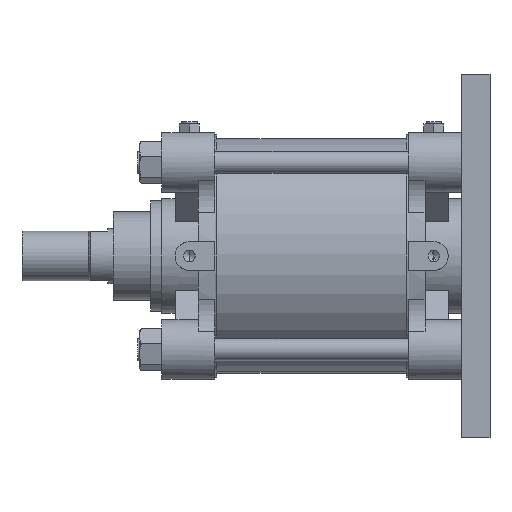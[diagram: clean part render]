
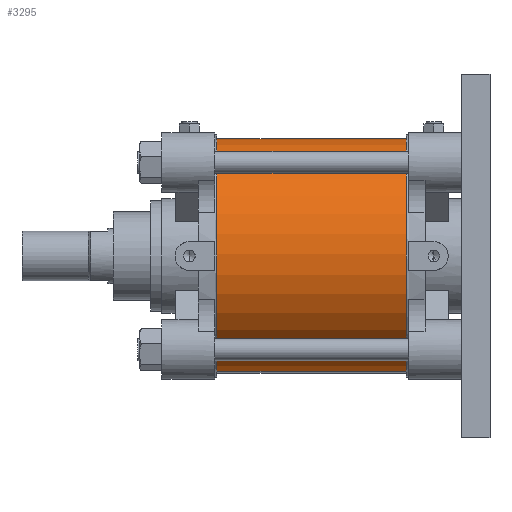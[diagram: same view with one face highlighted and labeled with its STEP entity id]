
A CAD part, front view. The second image highlights one B-rep face of the part: STEP entity #3295.
In plain terms, the highlighted cylindrical face has radius 106.5 mm (diameter 213 mm), a partial arc.
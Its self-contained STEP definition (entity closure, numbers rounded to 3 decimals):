
#138 = CARTESIAN_POINT ( 'NONE',  ( 86., 0., 106.5 ) ) ;
#387 = CARTESIAN_POINT ( 'NONE',  ( 86., 0., 0. ) ) ;
#526 = DIRECTION ( 'NONE',  ( -1., 0., 0. ) ) ;
#600 = VECTOR ( 'NONE', #526, 1000. ) ;
#669 = DIRECTION ( 'NONE',  ( 1., 0., 0. ) ) ;
#1506 = CARTESIAN_POINT ( 'NONE',  ( 86., 0., 106.5 ) ) ;
#1766 = VERTEX_POINT ( 'NONE', #5943 ) ;
#1798 = ORIENTED_EDGE ( 'NONE', *, *, #6163, .F. ) ;
#1807 = VERTEX_POINT ( 'NONE', #1506 ) ;
#2046 = EDGE_CURVE ( 'NONE', #1807, #1766, #7864, .T. ) ;
#2309 = CARTESIAN_POINT ( 'NONE',  ( 86., 0., 0. ) ) ;
#2362 = CARTESIAN_POINT ( 'NONE',  ( 86., 0., -106.5 ) ) ;
#3135 = CARTESIAN_POINT ( 'NONE',  ( -86., 0., -106.5 ) ) ;
#3267 = VERTEX_POINT ( 'NONE', #3135 ) ;
#3295 = ADVANCED_FACE ( 'NONE', ( #9736 ), #4326, .T. ) ;
#3824 = DIRECTION ( 'NONE',  ( 0., 0., -1. ) ) ;
#3960 = AXIS2_PLACEMENT_3D ( 'NONE', #2309, #5877, #9077 ) ;
#4003 = CARTESIAN_POINT ( 'NONE',  ( -86., 0., 0. ) ) ;
#4326 = CYLINDRICAL_SURFACE ( 'NONE', #3960, 106.5 ) ;
#4371 = VERTEX_POINT ( 'NONE', #7668 ) ;
#5664 = CIRCLE ( 'NONE', #9527, 106.5 ) ;
#5754 = DIRECTION ( 'NONE',  ( 0., 0., -1. ) ) ;
#5877 = DIRECTION ( 'NONE',  ( -1., 0., 0. ) ) ;
#5943 = CARTESIAN_POINT ( 'NONE',  ( -86., 0., 106.5 ) ) ;
#6163 = EDGE_CURVE ( 'NONE', #4371, #3267, #7490, .T. ) ;
#6226 = ORIENTED_EDGE ( 'NONE', *, *, #7785, .T. ) ;
#6927 = VECTOR ( 'NONE', #8711, 1000. ) ;
#7041 = EDGE_CURVE ( 'NONE', #1807, #4371, #5664, .T. ) ;
#7167 = AXIS2_PLACEMENT_3D ( 'NONE', #4003, #669, #3824 ) ;
#7490 = LINE ( 'NONE', #2362, #600 ) ;
#7656 = EDGE_LOOP ( 'NONE', ( #1798, #9889, #9069, #6226 ) ) ;
#7668 = CARTESIAN_POINT ( 'NONE',  ( 86., 0., -106.5 ) ) ;
#7785 = EDGE_CURVE ( 'NONE', #1766, #3267, #9648, .T. ) ;
#7864 = LINE ( 'NONE', #138, #6927 ) ;
#8467 = DIRECTION ( 'NONE',  ( 1., 0., 0. ) ) ;
#8711 = DIRECTION ( 'NONE',  ( -1., 0., 0. ) ) ;
#9069 = ORIENTED_EDGE ( 'NONE', *, *, #2046, .T. ) ;
#9077 = DIRECTION ( 'NONE',  ( 0., 0., 1. ) ) ;
#9527 = AXIS2_PLACEMENT_3D ( 'NONE', #387, #8467, #5754 ) ;
#9648 = CIRCLE ( 'NONE', #7167, 106.5 ) ;
#9736 = FACE_OUTER_BOUND ( 'NONE', #7656, .T. ) ;
#9889 = ORIENTED_EDGE ( 'NONE', *, *, #7041, .F. ) ;
